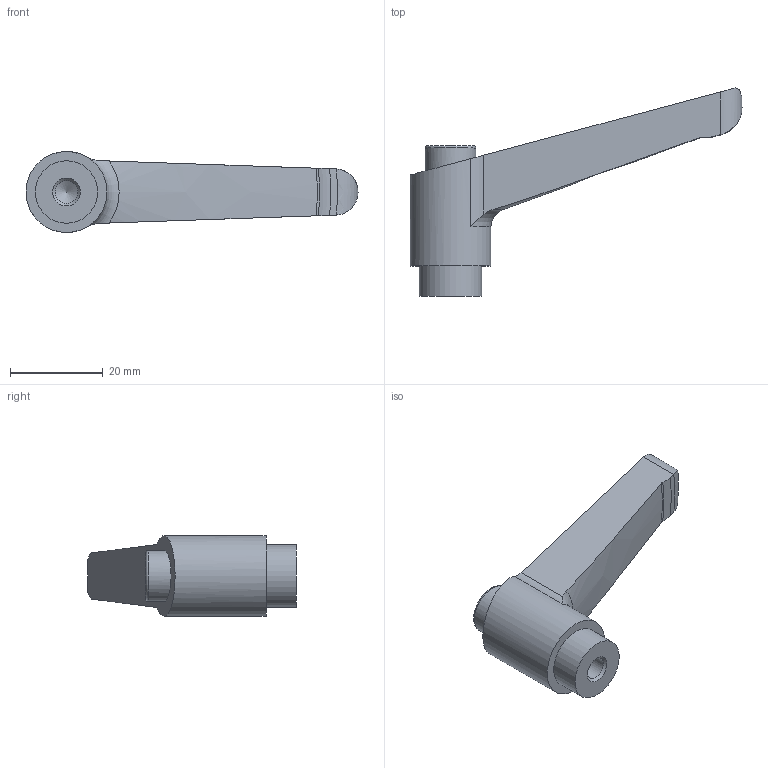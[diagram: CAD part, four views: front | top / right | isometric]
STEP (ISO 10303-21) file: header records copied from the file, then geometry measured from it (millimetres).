
FILE_DESCRIPTION( ( 'STEP AP203' ), '1' );
FILE_NAME( 'C:/Temp/Ganter_Step_05_03_2020/data/2_1/gn303_1/gn303_1_b/Adjustable hand lever GN 303.1-63-M6-SW-S.stp', '2020-03-05T11:21:55', ( 'License CC BY-ND 4.0' ), ( 'CADENAS' ), ' ', 'PARTsolutions', ' ' );
FILE_SCHEMA( ( 'CONFIG_CONTROL_DESIGN' ) );
Length unit declared in the file: millimetre
Products named in the file (1): _Adjustable hand lever GN 303.1-63-M6-SW-S
Bounding box: 71.75 x 45 x 17.5 mm (x, y, z)
Volume: 13100.7 mm3; surface area: 4665.3 mm2
Topology: 1 solids, 1 shells, 24 faces, 59 edges, 39 vertices
Faces by surface type: cylinder 7, plane 6, torus 6, cone 5
Full cylindrical faces by diameter (mm): 4.917 x1, 11 x1, 13.5 x1, 17.5 x1
Entity records: 828 total; most frequent: CARTESIAN_POINT 277, DIRECTION 100, ORIENTED_EDGE 98, EDGE_CURVE 49, AXIS2_PLACEMENT_3D 46, VERTEX_POINT 37, EDGE_LOOP 33, FACE_OUTER_BOUND 29
